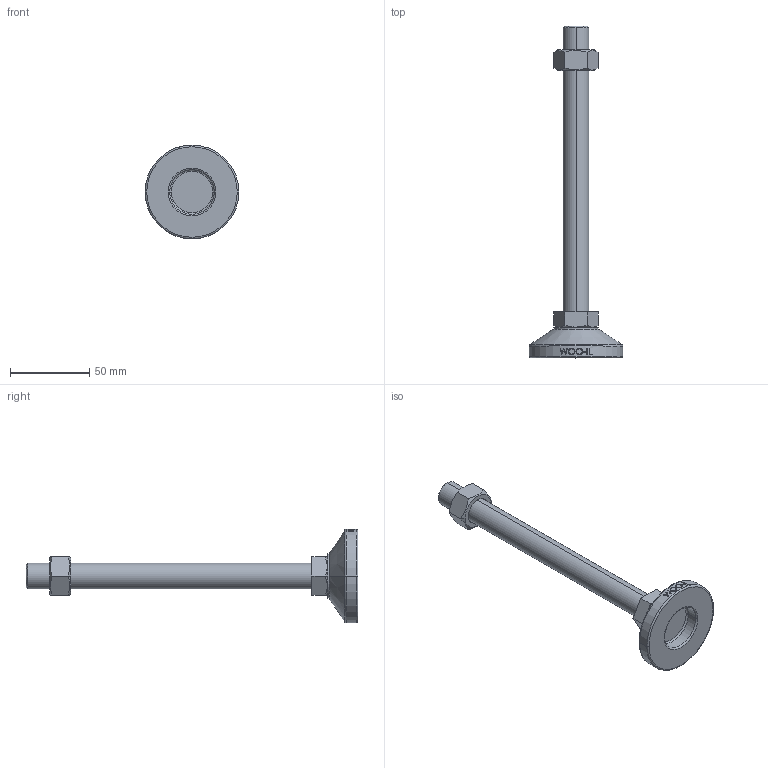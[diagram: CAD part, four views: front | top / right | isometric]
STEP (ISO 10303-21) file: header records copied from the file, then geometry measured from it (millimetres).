
FILE_DESCRIPTION (( 'STEP AP214' ), '1' );
FILE_NAME ('MF59-M16-180.step', '2021-02-03T08:18:08', ( '' ), ( '' ), 'SwSTEP 2.0', 'SolidWorks 2019', '' );
FILE_SCHEMA (( 'AUTOMOTIVE_DESIGN' ));
Length unit declared in the file: millimetre
Products named in the file (2): MF59-M16-180
Bounding box: 59 x 209 x 59 mm (x, y, z)
Volume: 77885.5 mm3; surface area: 21057.7 mm2
Topology: 3 solids, 3 shells, 106 faces, 243 edges, 154 vertices
Faces by surface type: plane 48, cylinder 18, bspline 16, cone 14, torus 10
Entity records: 4448 total; most frequent: CARTESIAN_POINT 2105, ORIENTED_EDGE 486, DIRECTION 439, EDGE_CURVE 243, AXIS2_PLACEMENT_3D 170, VERTEX_POINT 154, EDGE_LOOP 119, FACE_OUTER_BOUND 106
